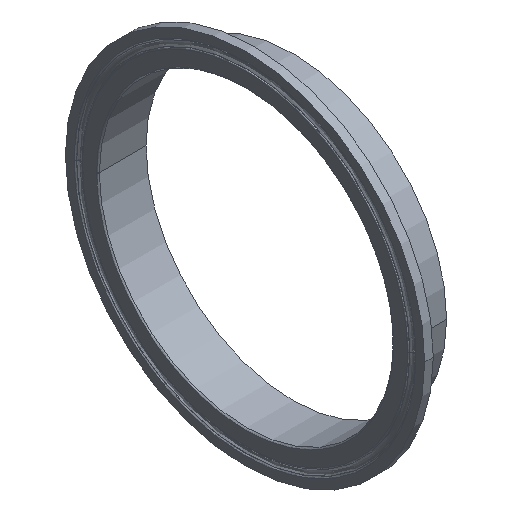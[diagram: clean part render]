
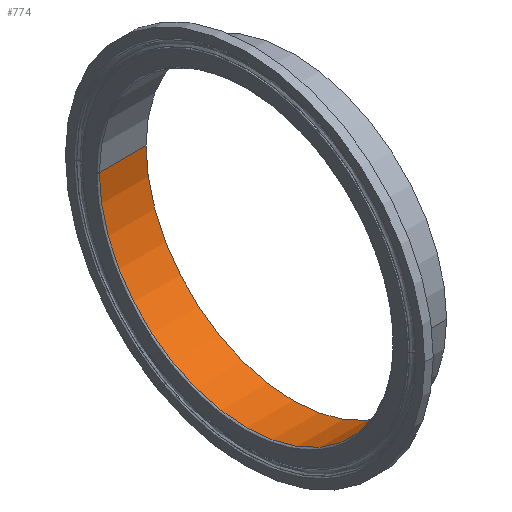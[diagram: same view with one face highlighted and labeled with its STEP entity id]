
A CAD part, isometric view. The second image highlights one B-rep face of the part: STEP entity #774.
In plain terms, the highlighted cylindrical face has radius 48.692 mm (diameter 97.384 mm), a partial arc.
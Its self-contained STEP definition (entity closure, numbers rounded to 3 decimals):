
#11 = CARTESIAN_POINT ( 'NONE',  ( 0., 0., 0. ) ) ;
#44 = DIRECTION ( 'NONE',  ( 0., 1., 0. ) ) ;
#54 = CARTESIAN_POINT ( 'NONE',  ( -15.443, -48.692, 0. ) ) ;
#162 = CARTESIAN_POINT ( 'NONE',  ( -15.443, 0., 0. ) ) ;
#183 = AXIS2_PLACEMENT_3D ( 'NONE', #11, #1539, #44 ) ;
#189 = FACE_OUTER_BOUND ( 'NONE', #1328, .T. ) ;
#251 = CARTESIAN_POINT ( 'NONE',  ( 0., 48.692, 0. ) ) ;
#268 = DIRECTION ( 'NONE',  ( 1., 0., 0. ) ) ;
#296 = AXIS2_PLACEMENT_3D ( 'NONE', #312, #268, #359 ) ;
#312 = CARTESIAN_POINT ( 'NONE',  ( 45.786, 0., 0. ) ) ;
#359 = DIRECTION ( 'NONE',  ( 0., 1., 0. ) ) ;
#385 = CARTESIAN_POINT ( 'NONE',  ( 45.786, -48.692, 0. ) ) ;
#408 = DIRECTION ( 'NONE',  ( 1., 0., 0. ) ) ;
#465 = EDGE_CURVE ( 'NONE', #1290, #1245, #832, .T. ) ;
#567 = EDGE_CURVE ( 'NONE', #1215, #1290, #703, .T. ) ;
#674 = ORIENTED_EDGE ( 'NONE', *, *, #567, .F. ) ;
#703 = LINE ( 'NONE', #712, #1010 ) ;
#712 = CARTESIAN_POINT ( 'NONE',  ( 45.786, 48.692, 0. ) ) ;
#774 = ADVANCED_FACE ( 'NONE', ( #189 ), #1422, .F. ) ;
#785 = ORIENTED_EDGE ( 'NONE', *, *, #465, .F. ) ;
#832 = CIRCLE ( 'NONE', #183, 48.692 ) ;
#854 = AXIS2_PLACEMENT_3D ( 'NONE', #162, #1268, #1478 ) ;
#860 = VERTEX_POINT ( 'NONE', #54 ) ;
#861 = CIRCLE ( 'NONE', #854, 48.692 ) ;
#1010 = VECTOR ( 'NONE', #1541, 1000. ) ;
#1123 = VECTOR ( 'NONE', #408, 1000. ) ;
#1158 = LINE ( 'NONE', #385, #1123 ) ;
#1167 = CARTESIAN_POINT ( 'NONE',  ( 0., -48.692, 0. ) ) ;
#1215 = VERTEX_POINT ( 'NONE', #1381 ) ;
#1220 = ORIENTED_EDGE ( 'NONE', *, *, #1317, .T. ) ;
#1245 = VERTEX_POINT ( 'NONE', #1167 ) ;
#1246 = EDGE_CURVE ( 'NONE', #860, #1215, #861, .T. ) ;
#1268 = DIRECTION ( 'NONE',  ( 1., 0., 0. ) ) ;
#1290 = VERTEX_POINT ( 'NONE', #251 ) ;
#1317 = EDGE_CURVE ( 'NONE', #860, #1245, #1158, .T. ) ;
#1328 = EDGE_LOOP ( 'NONE', ( #1362, #1220, #785, #674 ) ) ;
#1362 = ORIENTED_EDGE ( 'NONE', *, *, #1246, .F. ) ;
#1381 = CARTESIAN_POINT ( 'NONE',  ( -15.443, 48.692, 0. ) ) ;
#1422 = CYLINDRICAL_SURFACE ( 'NONE', #296, 48.692 ) ;
#1478 = DIRECTION ( 'NONE',  ( 0., 1., 0. ) ) ;
#1539 = DIRECTION ( 'NONE',  ( -1., 0., 0. ) ) ;
#1541 = DIRECTION ( 'NONE',  ( 1., 0., 0. ) ) ;
